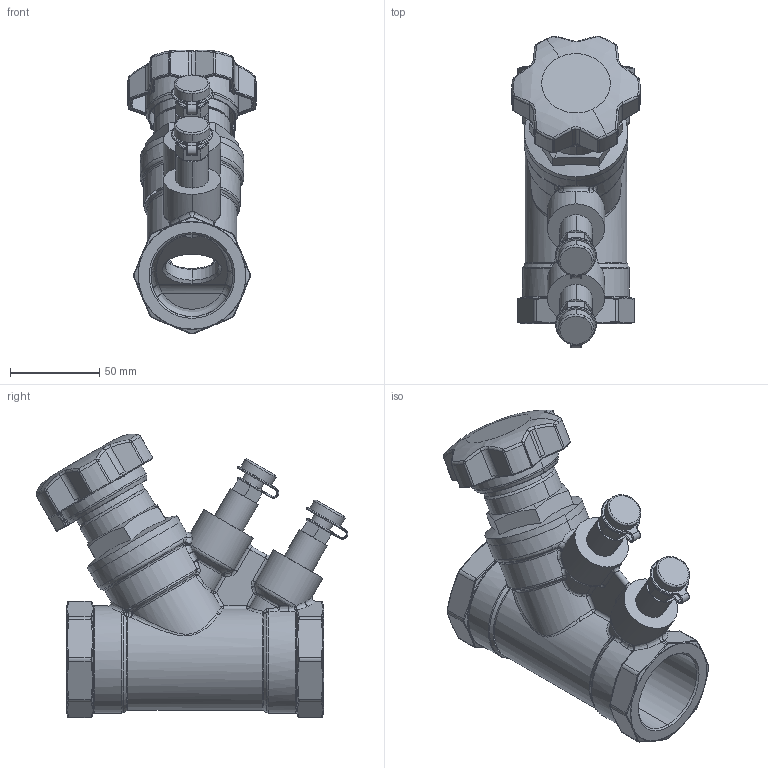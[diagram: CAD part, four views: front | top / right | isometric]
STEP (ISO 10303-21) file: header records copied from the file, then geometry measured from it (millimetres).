
FILE_DESCRIPTION (( 'STEP AP203' ), '1' );
FILE_NAME ('0.STEP', '2017-04-04T05:46:39', ( 'User' ), ( 'shendu' ), 'SwSTEP 2.0', 'SolidWorks 2015', '' );
FILE_SCHEMA (( 'CONFIG_CONTROL_DESIGN' ));
Length unit declared in the file: millimetre
Products named in the file (1): 0
Bounding box: 71.91 x 174.61 x 159.03 mm (x, y, z)
Volume: 372835.6 mm3; surface area: 134564.8 mm2
Topology: 9 solids, 9 shells, 1131 faces, 2763 edges, 1534 vertices
Faces by surface type: bspline 615, cylinder 287, plane 129, cone 100
Entity records: 70692 total; most frequent: CARTESIAN_POINT 49534, ORIENTED_EDGE 5250, DIRECTION 3031, EDGE_CURVE 2625, VERTEX_POINT 1534, AXIS2_PLACEMENT_3D 1265, B_SPLINE_CURVE_WITH_KNOTS 1250, EDGE_LOOP 1171
